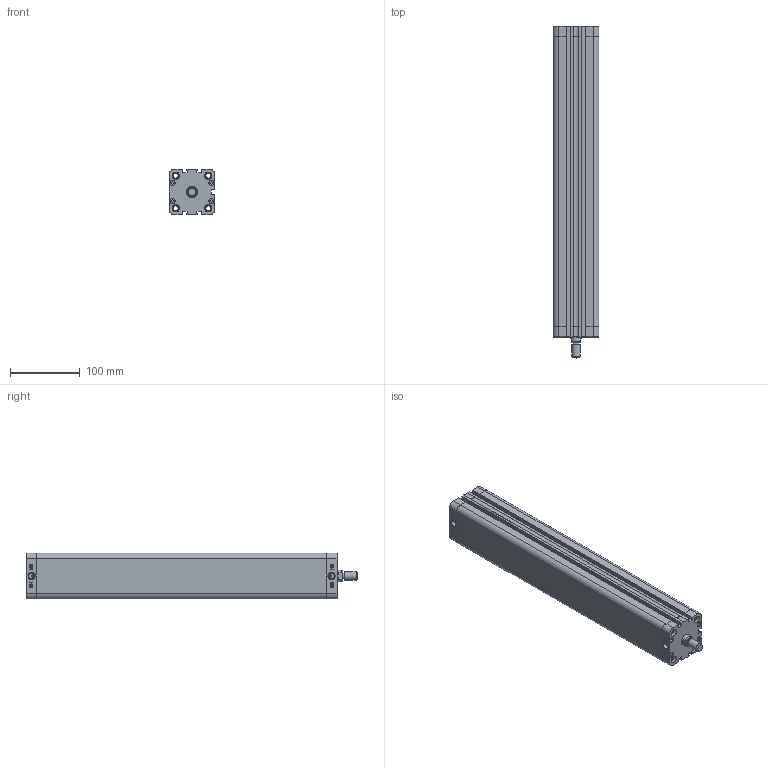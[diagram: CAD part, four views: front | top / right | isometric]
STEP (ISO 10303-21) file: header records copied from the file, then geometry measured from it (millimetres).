
FILE_DESCRIPTION((''),'2;1');
FILE_NAME('T:\Archivio Inventor\- CATALOGHI 2012\SERIE P - NUOVA\PDM\PDM050\PDM050.---.GS.M\PDM050.400.GS.M.stp','2013-02-01T12:23:46',('Administrator'),(''),'Autodesk Inventor 2012','Autodesk Inventor 2012','');
FILE_SCHEMA(('CONFIG_CONTROL_DESIGN'));
Length unit declared in the file: millimetre
Products named in the file (1): PDM050.400.GS.M
Bounding box: 65.5 x 475 x 65.5 mm (x, y, z)
Volume: 759915.5 mm3; surface area: 306977.3 mm2
Topology: 2 solids, 6 shells, 780 faces, 1860 edges, 1167 vertices
Faces by surface type: plane 335, bspline 196, cylinder 131, torus 56, cone 46, sphere 16
Full cylindrical faces by diameter (mm): 3.5 x2, 5.2 x4, 6.647 x8, 7.5 x8, 7.7 x8, 8.047 x4, 8.566 x2, 10 x1, 10.5 x8, 12 x2, 16 x1, 16.5 x1, 50 x1, 52.4 x1, 52.6 x1
Entity records: 25601 total; most frequent: CARTESIAN_POINT 8486, ORIENTED_EDGE 3488, DIRECTION 2866, EDGE_CURVE 1744, VERTEX_POINT 1148, AXIS2_PLACEMENT_3D 978, EDGE_LOOP 962, VECTOR 910
